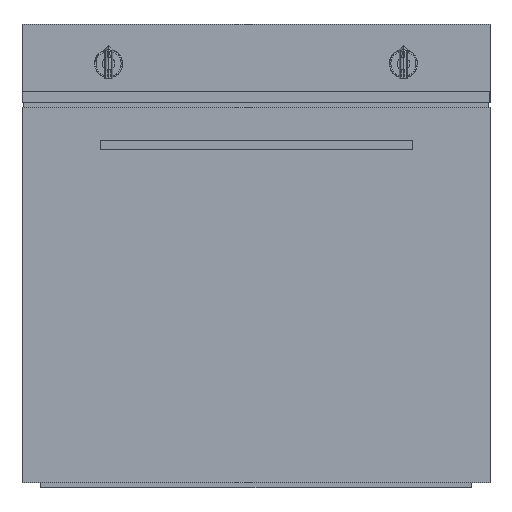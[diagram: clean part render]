
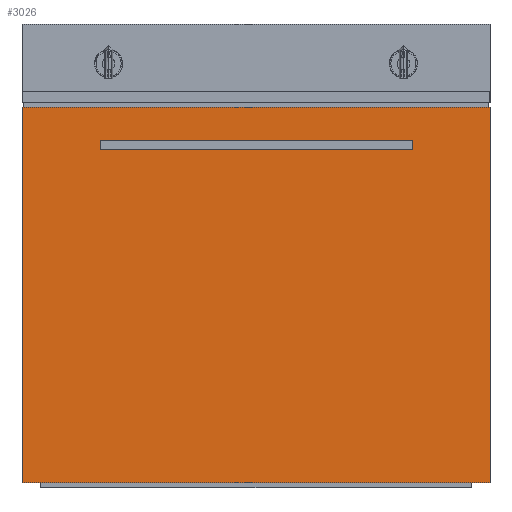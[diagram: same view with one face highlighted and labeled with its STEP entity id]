
A CAD part, front view. The second image highlights one B-rep face of the part: STEP entity #3026.
In plain terms, the highlighted planar face has unit normal (0, -1, 0).
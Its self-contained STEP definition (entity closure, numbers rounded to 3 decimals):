
#241=ORIENTED_EDGE('',*,*,#897,.F.);
#242=ORIENTED_EDGE('',*,*,#898,.F.);
#243=ORIENTED_EDGE('',*,*,#888,.T.);
#244=ORIENTED_EDGE('',*,*,#896,.T.);
#888=EDGE_CURVE('',#1217,#1218,#1443,.T.);
#896=EDGE_CURVE('',#1218,#1224,#1451,.T.);
#897=EDGE_CURVE('',#1225,#1224,#1452,.T.);
#898=EDGE_CURVE('',#1217,#1225,#1453,.T.);
#1217=VERTEX_POINT('',#3752);
#1218=VERTEX_POINT('',#3753);
#1224=VERTEX_POINT('',#3767);
#1225=VERTEX_POINT('',#3771);
#1443=LINE('',#3751,#1636);
#1451=LINE('',#3768,#1644);
#1452=LINE('',#3770,#1645);
#1453=LINE('',#3772,#1646);
#1636=VECTOR('',#3308,1000.);
#1644=VECTOR('',#3318,1000.);
#1645=VECTOR('',#3321,1000.);
#1646=VECTOR('',#3322,1000.);
#1820=EDGE_LOOP('',(#241,#242,#243,#244));
#1961=FACE_BOUND('',#1820,.T.);
#2102=PLANE('',#3161);
#3026=ADVANCED_FACE('',(#1961),#2102,.F.);
#3161=AXIS2_PLACEMENT_3D('',#3769,#3319,#3320);
#3308=DIRECTION('',(-1.,0.,0.));
#3318=DIRECTION('',(0.,0.,-1.));
#3319=DIRECTION('',(0.,1.,0.));
#3320=DIRECTION('',(0.,0.,-1.));
#3321=DIRECTION('',(-1.,0.,0.));
#3322=DIRECTION('',(0.,0.,-1.));
#3751=CARTESIAN_POINT('',(-0.2,-257.15,208.017));
#3752=CARTESIAN_POINT('',(298.3,-257.15,208.017));
#3753=CARTESIAN_POINT('',(-298.7,-257.15,208.017));
#3767=CARTESIAN_POINT('',(-298.7,-257.15,-270.983));
#3768=CARTESIAN_POINT('',(-298.7,-257.15,208.017));
#3769=CARTESIAN_POINT('',(-0.2,-257.15,208.017));
#3770=CARTESIAN_POINT('',(-0.2,-257.15,-270.983));
#3771=CARTESIAN_POINT('',(298.3,-257.15,-270.983));
#3772=CARTESIAN_POINT('',(298.3,-257.15,208.017));
